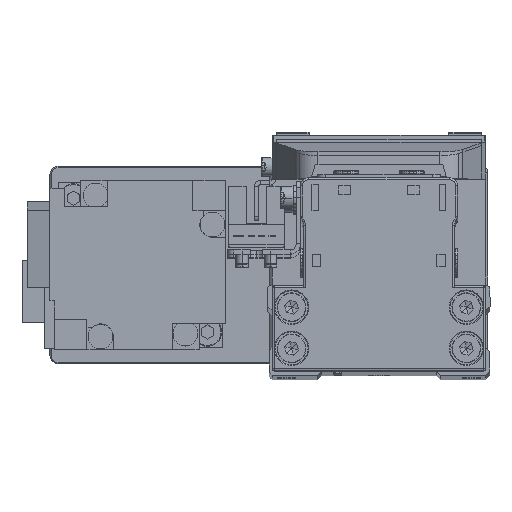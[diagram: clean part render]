
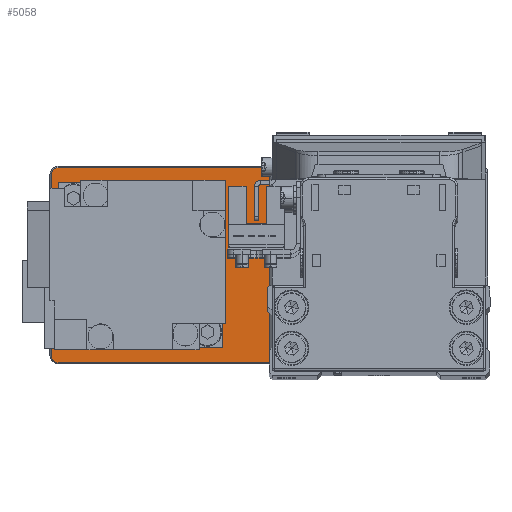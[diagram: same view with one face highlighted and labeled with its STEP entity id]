
A CAD part, top view. The second image highlights one B-rep face of the part: STEP entity #5058.
In plain terms, the highlighted planar face has unit normal (0, 0, 1).
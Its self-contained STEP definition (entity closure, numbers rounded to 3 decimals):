
#245 = EDGE_LOOP ( 'NONE', ( #11665, #10779 ) ) ;
#1674 = CIRCLE ( 'NONE', #24467, 1.7 ) ;
#1806 = AXIS2_PLACEMENT_3D ( 'NONE', #38605, #10768, #23202 ) ;
#1834 = LINE ( 'NONE', #14256, #38437 ) ;
#2416 = DIRECTION ( 'NONE',  ( 0., 0., 1. ) ) ;
#2470 = PLANE ( 'NONE',  #26219 ) ;
#2521 = DIRECTION ( 'NONE',  ( 1., 0., 0. ) ) ;
#3791 = DIRECTION ( 'NONE',  ( 0., 1., 0. ) ) ;
#4019 = VERTEX_POINT ( 'NONE', #19124 ) ;
#4273 = DIRECTION ( 'NONE',  ( 0., 0., -1. ) ) ;
#4302 = ORIENTED_EDGE ( 'NONE', *, *, #22678, .T. ) ;
#5058 = ADVANCED_FACE ( 'NONE', ( #5528, #17974, #30369 ), #2470, .T. ) ;
#5321 = AXIS2_PLACEMENT_3D ( 'NONE', #30317, #2416, #14835 ) ;
#5444 = VERTEX_POINT ( 'NONE', #8705 ) ;
#5528 = FACE_BOUND ( 'NONE', #23257, .T. ) ;
#6472 = EDGE_CURVE ( 'NONE', #7743, #18206, #25587, .T. ) ;
#6609 = CARTESIAN_POINT ( 'NONE',  ( 30., 0., 5. ) ) ;
#6931 = DIRECTION ( 'NONE',  ( -1., 0., 0. ) ) ;
#7148 = EDGE_CURVE ( 'NONE', #5444, #13587, #30569, .T. ) ;
#7743 = VERTEX_POINT ( 'NONE', #33129 ) ;
#7914 = EDGE_LOOP ( 'NONE', ( #26808, #37088, #24684, #31971, #27164, #28976, #4302, #22454 ) ) ;
#8705 = CARTESIAN_POINT ( 'NONE',  ( 42.8, 0., 5. ) ) ;
#9482 = CARTESIAN_POINT ( 'NONE',  ( -50., 23.7, 5. ) ) ;
#9525 = CARTESIAN_POINT ( 'NONE',  ( -50., -22., 5. ) ) ;
#9534 = CARTESIAN_POINT ( 'NONE',  ( 50., 23.7, 5. ) ) ;
#9673 = CARTESIAN_POINT ( 'NONE',  ( -28., 0., 5. ) ) ;
#10403 = CARTESIAN_POINT ( 'NONE',  ( -51.7, 22., 5. ) ) ;
#10768 = DIRECTION ( 'NONE',  ( 0., 0., 1. ) ) ;
#10779 = ORIENTED_EDGE ( 'NONE', *, *, #6472, .T. ) ;
#11665 = ORIENTED_EDGE ( 'NONE', *, *, #19562, .T. ) ;
#11981 = DIRECTION ( 'NONE',  ( 0., -1., 0. ) ) ;
#12241 = CARTESIAN_POINT ( 'NONE',  ( 50., 22., 5. ) ) ;
#12269 = AXIS2_PLACEMENT_3D ( 'NONE', #6609, #19058, #31467 ) ;
#13026 = AXIS2_PLACEMENT_3D ( 'NONE', #32171, #4273, #16709 ) ;
#13587 = VERTEX_POINT ( 'NONE', #16337 ) ;
#14256 = CARTESIAN_POINT ( 'NONE',  ( 50., -23.7, 5. ) ) ;
#14835 = DIRECTION ( 'NONE',  ( 1., 0., 0. ) ) ;
#14891 = CARTESIAN_POINT ( 'NONE',  ( 0., 0., 5. ) ) ;
#14932 = CIRCLE ( 'NONE', #37644, 10.3 ) ;
#15632 = ORIENTED_EDGE ( 'NONE', *, *, #7148, .T. ) ;
#16337 = CARTESIAN_POINT ( 'NONE',  ( 17.2, 0., 5. ) ) ;
#16455 = CIRCLE ( 'NONE', #39147, 1.7 ) ;
#16709 = DIRECTION ( 'NONE',  ( 1., 0., 0. ) ) ;
#17230 = VERTEX_POINT ( 'NONE', #21932 ) ;
#17974 = FACE_BOUND ( 'NONE', #245, .T. ) ;
#18032 = CARTESIAN_POINT ( 'NONE',  ( -28., 0., 5. ) ) ;
#18206 = VERTEX_POINT ( 'NONE', #39356 ) ;
#19058 = DIRECTION ( 'NONE',  ( 0., 0., -1. ) ) ;
#19124 = CARTESIAN_POINT ( 'NONE',  ( 51.7, -22., 5. ) ) ;
#19129 = CARTESIAN_POINT ( 'NONE',  ( 50., -23.7, 5. ) ) ;
#19313 = LINE ( 'NONE', #31697, #38761 ) ;
#19404 = CIRCLE ( 'NONE', #1806, 1.7 ) ;
#19562 = EDGE_CURVE ( 'NONE', #18206, #7743, #14932, .T. ) ;
#21932 = CARTESIAN_POINT ( 'NONE',  ( -51.7, -22., 5. ) ) ;
#21957 = DIRECTION ( 'NONE',  ( 0., 0., 1. ) ) ;
#22067 = EDGE_CURVE ( 'NONE', #30573, #25158, #1834, .T. ) ;
#22104 = DIRECTION ( 'NONE',  ( 0., 0., -1. ) ) ;
#22436 = LINE ( 'NONE', #34821, #30239 ) ;
#22454 = ORIENTED_EDGE ( 'NONE', *, *, #22774, .T. ) ;
#22678 = EDGE_CURVE ( 'NONE', #26800, #17230, #27459, .T. ) ;
#22739 = AXIS2_PLACEMENT_3D ( 'NONE', #18032, #30425, #2521 ) ;
#22774 = EDGE_CURVE ( 'NONE', #17230, #30573, #16455, .T. ) ;
#22887 = CIRCLE ( 'NONE', #5321, 1.7 ) ;
#23202 = DIRECTION ( 'NONE',  ( 1., 0., 0. ) ) ;
#23257 = EDGE_LOOP ( 'NONE', ( #15632, #38084 ) ) ;
#23753 = EDGE_CURVE ( 'NONE', #29870, #26800, #22887, .T. ) ;
#23897 = VERTEX_POINT ( 'NONE', #9534 ) ;
#24311 = VERTEX_POINT ( 'NONE', #27822 ) ;
#24467 = AXIS2_PLACEMENT_3D ( 'NONE', #12241, #24679, #37032 ) ;
#24679 = DIRECTION ( 'NONE',  ( 0., 0., 1. ) ) ;
#24684 = ORIENTED_EDGE ( 'NONE', *, *, #34538, .T. ) ;
#25158 = VERTEX_POINT ( 'NONE', #19129 ) ;
#25587 = CIRCLE ( 'NONE', #22739, 10.3 ) ;
#26219 = AXIS2_PLACEMENT_3D ( 'NONE', #14891, #27878, #30126 ) ;
#26693 = DIRECTION ( 'NONE',  ( 1., 0., 0. ) ) ;
#26800 = VERTEX_POINT ( 'NONE', #10403 ) ;
#26808 = ORIENTED_EDGE ( 'NONE', *, *, #22067, .T. ) ;
#27164 = ORIENTED_EDGE ( 'NONE', *, *, #32161, .T. ) ;
#27459 = LINE ( 'NONE', #39800, #27516 ) ;
#27516 = VECTOR ( 'NONE', #11981, 1000. ) ;
#27822 = CARTESIAN_POINT ( 'NONE',  ( 51.7, 22., 5. ) ) ;
#27878 = DIRECTION ( 'NONE',  ( 0., 0., 1. ) ) ;
#28976 = ORIENTED_EDGE ( 'NONE', *, *, #23753, .T. ) ;
#29830 = CIRCLE ( 'NONE', #12269, 12.8 ) ;
#29870 = VERTEX_POINT ( 'NONE', #9482 ) ;
#30126 = DIRECTION ( 'NONE',  ( 1., 0., 0. ) ) ;
#30239 = VECTOR ( 'NONE', #6931, 1000. ) ;
#30317 = CARTESIAN_POINT ( 'NONE',  ( -50., 22., 5. ) ) ;
#30369 = FACE_OUTER_BOUND ( 'NONE', #7914, .T. ) ;
#30425 = DIRECTION ( 'NONE',  ( 0., 0., -1. ) ) ;
#30569 = CIRCLE ( 'NONE', #13026, 12.8 ) ;
#30573 = VERTEX_POINT ( 'NONE', #39817 ) ;
#31467 = DIRECTION ( 'NONE',  ( 1., 0., 0. ) ) ;
#31697 = CARTESIAN_POINT ( 'NONE',  ( 51.7, 22., 5. ) ) ;
#31971 = ORIENTED_EDGE ( 'NONE', *, *, #33229, .T. ) ;
#32161 = EDGE_CURVE ( 'NONE', #23897, #29870, #22436, .T. ) ;
#32171 = CARTESIAN_POINT ( 'NONE',  ( 30., 0., 5. ) ) ;
#33129 = CARTESIAN_POINT ( 'NONE',  ( -38.3, 0., 5. ) ) ;
#33229 = EDGE_CURVE ( 'NONE', #24311, #23897, #1674, .T. ) ;
#34340 = DIRECTION ( 'NONE',  ( 1., 0., 0. ) ) ;
#34491 = DIRECTION ( 'NONE',  ( 1., 0., 0. ) ) ;
#34538 = EDGE_CURVE ( 'NONE', #4019, #24311, #19313, .T. ) ;
#34821 = CARTESIAN_POINT ( 'NONE',  ( -50., 23.7, 5. ) ) ;
#35572 = EDGE_CURVE ( 'NONE', #25158, #4019, #19404, .T. ) ;
#36390 = EDGE_CURVE ( 'NONE', #13587, #5444, #29830, .T. ) ;
#37032 = DIRECTION ( 'NONE',  ( 1., 0., 0. ) ) ;
#37088 = ORIENTED_EDGE ( 'NONE', *, *, #35572, .T. ) ;
#37644 = AXIS2_PLACEMENT_3D ( 'NONE', #9673, #22104, #34491 ) ;
#38084 = ORIENTED_EDGE ( 'NONE', *, *, #36390, .T. ) ;
#38437 = VECTOR ( 'NONE', #26693, 1000. ) ;
#38605 = CARTESIAN_POINT ( 'NONE',  ( 50., -22., 5. ) ) ;
#38761 = VECTOR ( 'NONE', #3791, 1000. ) ;
#39147 = AXIS2_PLACEMENT_3D ( 'NONE', #9525, #21957, #34340 ) ;
#39356 = CARTESIAN_POINT ( 'NONE',  ( -17.7, 0., 5. ) ) ;
#39800 = CARTESIAN_POINT ( 'NONE',  ( -51.7, -22., 5. ) ) ;
#39817 = CARTESIAN_POINT ( 'NONE',  ( -50., -23.7, 5. ) ) ;
